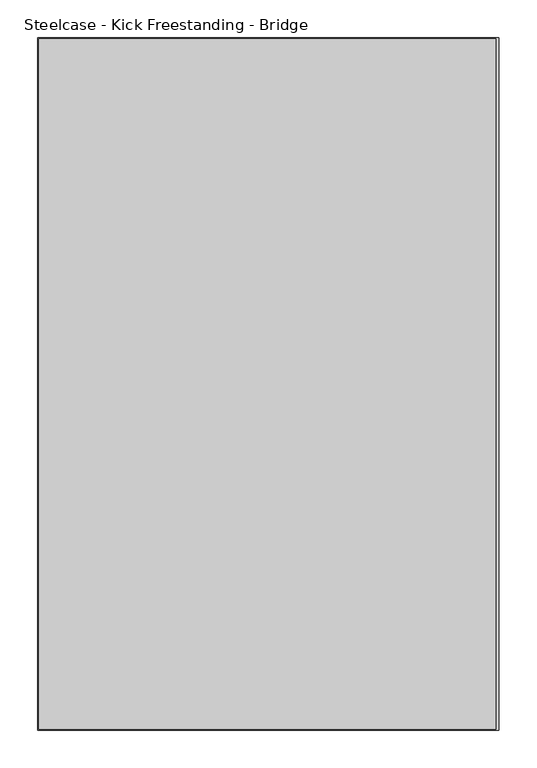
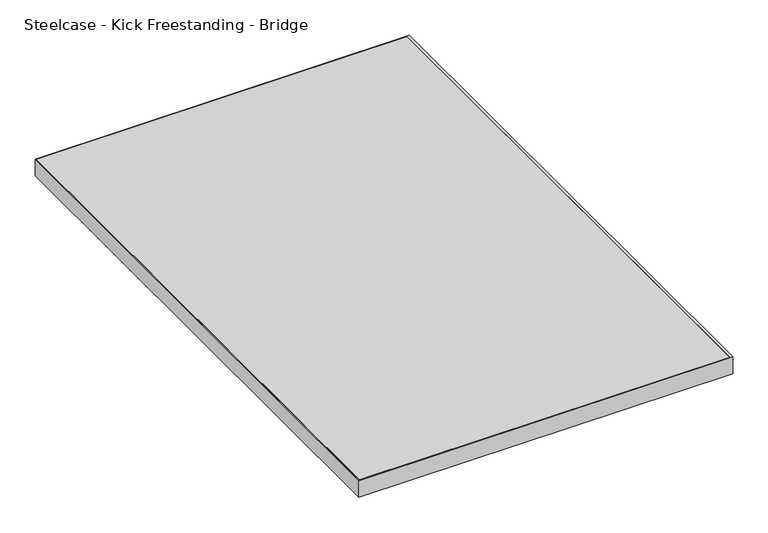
"""IFC4 building model written with IfcOpenShell, lengths in millimetres: furniture geometry, Steelcase - Kick Freestanding - Bridge : 24D x 36W."""

from ifc_helpers import new_model, si_unit, frame, origin, place, context, project, spatial, polyline, outline, extrude, source, transform, mapped, element, save


def steelcase_kick_freestanding_bridge_ca9cb6c0(model_context):
    return source(origin(), model_context, "Body", "SweptSolid", [
        extrude(outline(polyline([(2769.2176592, -548.0845152), (2769.2176592, -1459.9445152), (2164.8500425, -1459.9445152), (2164.8500425, -548.0845152), (2769.2176592, -548.0845152)])), frame((0.0, 0.0, 682.244), z_axis=(0.0, 0.0, 1.0), x_axis=(1.0, 0.0, 0.0)), (0.0, 0.0, 1.0), 28.956),
        extrude(outline(polyline([(2773.4594425, -546.8145152), (2773.4594425, -1461.2145152), (2163.8594425, -1461.2145152), (2163.8594425, -546.8145152), (2773.4594425, -546.8145152)]), holes=[polyline([(2769.2176592, -548.0845152), (2164.8500425, -548.0845152), (2164.8500425, -1459.9445152), (2769.2176592, -1459.9445152), (2769.2176592, -548.0845152)])]), frame((0.0, 0.0, 682.244), z_axis=(0.0, 0.0, 1.0), x_axis=(1.0, 0.0, 0.0)), (0.0, 0.0, 1.0), 28.956),
    ])


if __name__ == "__main__":
    model = new_model("IFC4")
    model_context = context("Model", 3, world=origin())
    ifc_project = project(units=[si_unit("LENGTHUNIT", "METRE", prefix="MILLI")], contexts=[model_context])
    site = spatial("IfcSite", under=ifc_project)
    building = spatial("IfcBuilding", under=site)
    placement = place(None, origin())
    steelcase_kick_freestanding_bridge_shape = steelcase_kick_freestanding_bridge_ca9cb6c0(model_context)
    element("IfcFurniture", 1, ObjectType="Steelcase - Kick Freestanding - Bridge : 24D x 36W", at=placement, inside=building, context=model_context, shape_type="MappedRepresentation", body=[
        mapped(steelcase_kick_freestanding_bridge_shape, transform((0.0, 0.0, 0.0), x_axis=(1.0, 0.0, 0.0), y_axis=(0.0, 1.0, 0.0), z_axis=(0.0, 0.0, 1.0))),
    ])
    save(model, "model.ifc")
